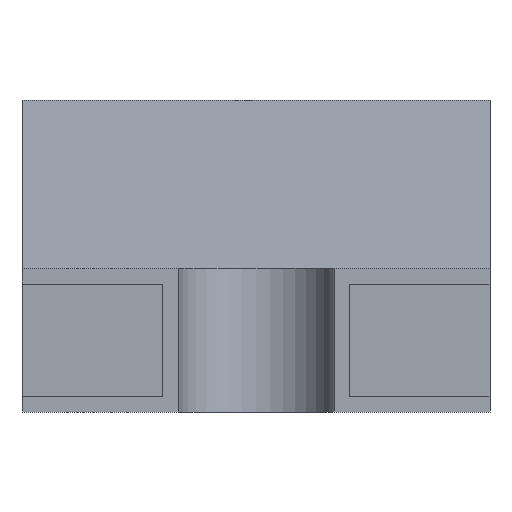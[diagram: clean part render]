
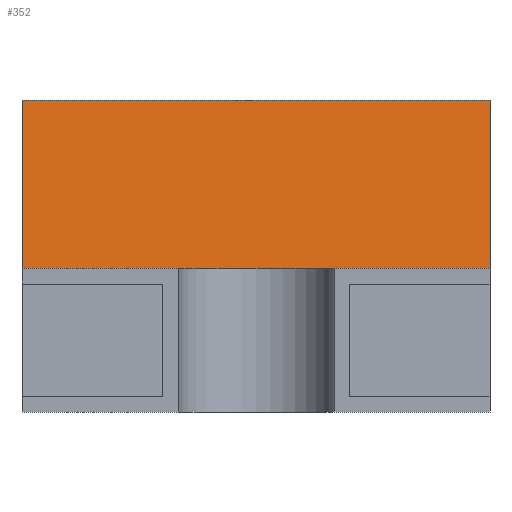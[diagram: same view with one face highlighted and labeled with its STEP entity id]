
A CAD part, front view. The second image highlights one B-rep face of the part: STEP entity #352.
In plain terms, the highlighted planar face has unit normal (0, -0.993, 0.122).
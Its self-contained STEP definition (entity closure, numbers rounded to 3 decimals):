
#352 = ADVANCED_FACE('',(#353),#387,.T.);
#353 = FACE_BOUND('',#354,.T.);
#354 = EDGE_LOOP('',(#355,#365,#373,#381));
#355 = ORIENTED_EDGE('',*,*,#356,.T.);
#356 = EDGE_CURVE('',#357,#359,#361,.T.);
#357 = VERTEX_POINT('',#358);
#358 = CARTESIAN_POINT('',(0.75,-0.928,1.));
#359 = VERTEX_POINT('',#360);
#360 = CARTESIAN_POINT('',(-0.75,-0.928,1.));
#361 = LINE('',#362,#363);
#362 = CARTESIAN_POINT('',(0.75,-0.928,1.));
#363 = VECTOR('',#364,1.);
#364 = DIRECTION('',(-1.,-0.,-0.));
#365 = ORIENTED_EDGE('',*,*,#366,.T.);
#366 = EDGE_CURVE('',#359,#367,#369,.T.);
#367 = VERTEX_POINT('',#368);
#368 = CARTESIAN_POINT('',(-0.75,-1.,0.41));
#369 = LINE('',#370,#371);
#370 = CARTESIAN_POINT('',(-0.75,-0.928,1.));
#371 = VECTOR('',#372,1.);
#372 = DIRECTION('',(0.,-0.122,-0.993));
#373 = ORIENTED_EDGE('',*,*,#374,.F.);
#374 = EDGE_CURVE('',#375,#367,#377,.T.);
#375 = VERTEX_POINT('',#376);
#376 = CARTESIAN_POINT('',(0.75,-1.,0.41));
#377 = LINE('',#378,#379);
#378 = CARTESIAN_POINT('',(0.75,-1.,0.41));
#379 = VECTOR('',#380,1.);
#380 = DIRECTION('',(-1.,-0.,-0.));
#381 = ORIENTED_EDGE('',*,*,#382,.F.);
#382 = EDGE_CURVE('',#357,#375,#383,.T.);
#383 = LINE('',#384,#385);
#384 = CARTESIAN_POINT('',(0.75,-0.928,1.));
#385 = VECTOR('',#386,1.);
#386 = DIRECTION('',(0.,-0.122,-0.993));
#387 = PLANE('',#388);
#388 = AXIS2_PLACEMENT_3D('',#389,#390,#391);
#389 = CARTESIAN_POINT('',(0.75,-0.928,1.));
#390 = DIRECTION('',(0.,-0.993,0.122));
#391 = DIRECTION('',(0.,-0.122,-0.993));
